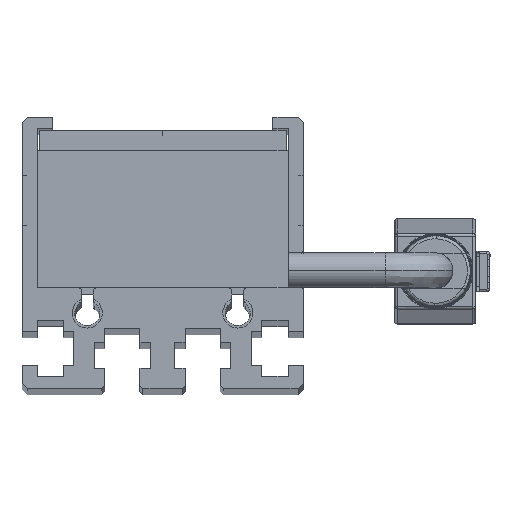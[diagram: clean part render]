
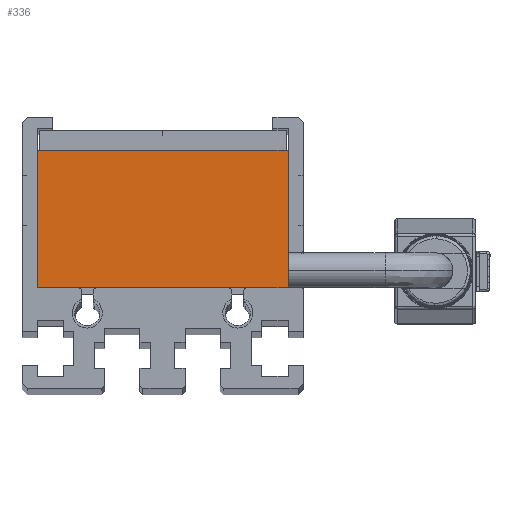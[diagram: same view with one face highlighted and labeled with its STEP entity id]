
A CAD part, top view. The second image highlights one B-rep face of the part: STEP entity #336.
In plain terms, the highlighted planar face has unit normal (0, 0, 1).
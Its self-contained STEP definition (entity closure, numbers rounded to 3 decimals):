
#336 = ADVANCED_FACE ( 'NONE', ( #7431 ), #11654, .F. ) ;
#505 = EDGE_CURVE ( 'NONE', #13838, #11172, #1806, .T. ) ;
#1806 = LINE ( 'NONE', #9329, #5526 ) ;
#2299 = CARTESIAN_POINT ( 'NONE',  ( 12.5, 0., 186. ) ) ;
#2585 = VECTOR ( 'NONE', #5427, 1000. ) ;
#3321 = VECTOR ( 'NONE', #15834, 1000. ) ;
#3932 = CARTESIAN_POINT ( 'NONE',  ( 12.5, 13.7, 186. ) ) ;
#4973 = CARTESIAN_POINT ( 'NONE',  ( 12.5, 13.7, 186. ) ) ;
#5160 = DIRECTION ( 'NONE',  ( 0., 0., -1. ) ) ;
#5427 = DIRECTION ( 'NONE',  ( 0., -1., 0. ) ) ;
#5483 = CARTESIAN_POINT ( 'NONE',  ( -12.5, 13.7, 186. ) ) ;
#5526 = VECTOR ( 'NONE', #15993, 1000. ) ;
#5948 = EDGE_LOOP ( 'NONE', ( #11044, #11219, #13384, #7985 ) ) ;
#7431 = FACE_OUTER_BOUND ( 'NONE', #5948, .T. ) ;
#7439 = CARTESIAN_POINT ( 'NONE',  ( 12.5, 13.7, 186. ) ) ;
#7822 = CARTESIAN_POINT ( 'NONE',  ( 12.5, 13.7, 186. ) ) ;
#7876 = DIRECTION ( 'NONE',  ( 0., -1., 0. ) ) ;
#7985 = ORIENTED_EDGE ( 'NONE', *, *, #10776, .T. ) ;
#8350 = LINE ( 'NONE', #5483, #2585 ) ;
#9329 = CARTESIAN_POINT ( 'NONE',  ( 12.5, 0., 186. ) ) ;
#10104 = VECTOR ( 'NONE', #7876, 1000. ) ;
#10776 = EDGE_CURVE ( 'NONE', #14354, #12578, #10802, .T. ) ;
#10802 = LINE ( 'NONE', #3932, #3321 ) ;
#11044 = ORIENTED_EDGE ( 'NONE', *, *, #14735, .T. ) ;
#11172 = VERTEX_POINT ( 'NONE', #12695 ) ;
#11219 = ORIENTED_EDGE ( 'NONE', *, *, #505, .F. ) ;
#11654 = PLANE ( 'NONE',  #12118 ) ;
#12118 = AXIS2_PLACEMENT_3D ( 'NONE', #4973, #5160, #14215 ) ;
#12578 = VERTEX_POINT ( 'NONE', #16159 ) ;
#12695 = CARTESIAN_POINT ( 'NONE',  ( -12.5, 0., 186. ) ) ;
#13384 = ORIENTED_EDGE ( 'NONE', *, *, #13391, .F. ) ;
#13391 = EDGE_CURVE ( 'NONE', #14354, #13838, #16481, .T. ) ;
#13838 = VERTEX_POINT ( 'NONE', #2299 ) ;
#14215 = DIRECTION ( 'NONE',  ( -1., 0., 0. ) ) ;
#14354 = VERTEX_POINT ( 'NONE', #7439 ) ;
#14735 = EDGE_CURVE ( 'NONE', #12578, #11172, #8350, .T. ) ;
#15834 = DIRECTION ( 'NONE',  ( -1., 0., 0. ) ) ;
#15993 = DIRECTION ( 'NONE',  ( -1., 0., 0. ) ) ;
#16159 = CARTESIAN_POINT ( 'NONE',  ( -12.5, 13.7, 186. ) ) ;
#16481 = LINE ( 'NONE', #7822, #10104 ) ;
